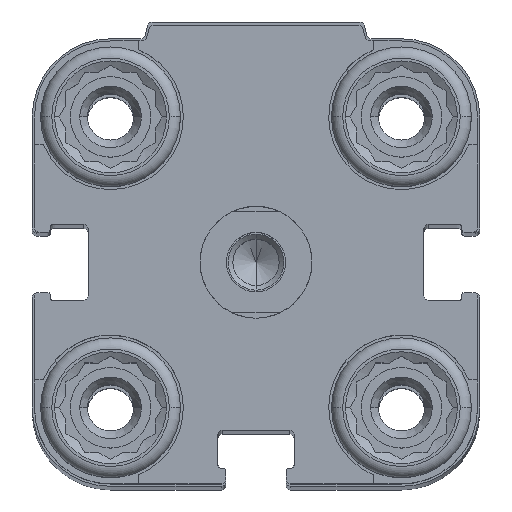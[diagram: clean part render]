
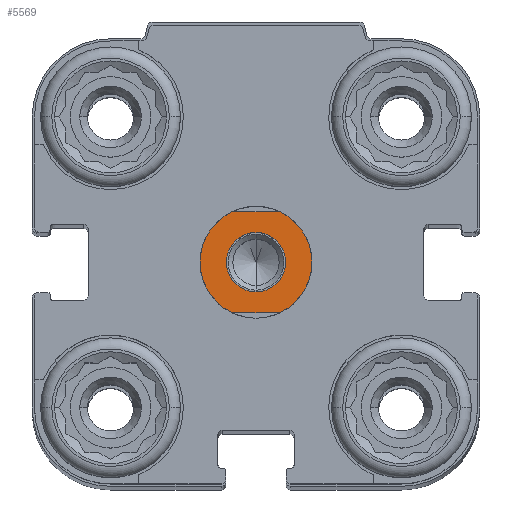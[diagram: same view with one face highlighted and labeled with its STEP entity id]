
A CAD part, top view. The second image highlights one B-rep face of the part: STEP entity #5569.
In plain terms, the highlighted planar face has unit normal (0, 0, 1).
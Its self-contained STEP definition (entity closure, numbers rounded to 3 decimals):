
#17 = AXIS2_PLACEMENT_3D ( 'NONE', #2848, #18433, #5394 ) ;
#822 = CIRCLE ( 'NONE', #6509, 5. ) ;
#1062 = DIRECTION ( 'NONE',  ( -1., 0., 0. ) ) ;
#2230 = CARTESIAN_POINT ( 'NONE',  ( 0., 0., 5.5 ) ) ;
#2274 = EDGE_LOOP ( 'NONE', ( #7427, #8539, #10688, #13159, #9763, #15773 ) ) ;
#2422 = DIRECTION ( 'NONE',  ( 1., 0., 0. ) ) ;
#2848 = CARTESIAN_POINT ( 'NONE',  ( 0., 0., 5.5 ) ) ;
#3004 = CARTESIAN_POINT ( 'NONE',  ( 5., 0., 5.5 ) ) ;
#3230 = CARTESIAN_POINT ( 'NONE',  ( 2.179, 4.5, 5.5 ) ) ;
#3819 = LINE ( 'NONE', #5059, #4812 ) ;
#3979 = CARTESIAN_POINT ( 'NONE',  ( 0., 0., 5.5 ) ) ;
#4176 = DIRECTION ( 'NONE',  ( 0., 1., 0. ) ) ;
#4812 = VECTOR ( 'NONE', #2422, 1000. ) ;
#5059 = CARTESIAN_POINT ( 'NONE',  ( -9., 4.5, 5.5 ) ) ;
#5167 = CARTESIAN_POINT ( 'NONE',  ( 0., 0., 5.5 ) ) ;
#5273 = CIRCLE ( 'NONE', #7975, 2.65 ) ;
#5282 = ORIENTED_EDGE ( 'NONE', *, *, #12957, .T. ) ;
#5394 = DIRECTION ( 'NONE',  ( -1., 0., 0. ) ) ;
#5490 = FACE_BOUND ( 'NONE', #8770, .T. ) ;
#5569 = ADVANCED_FACE ( 'NONE', ( #7616, #5490 ), #11205, .F. ) ;
#5578 = AXIS2_PLACEMENT_3D ( 'NONE', #8563, #7059, #12780 ) ;
#5937 = CIRCLE ( 'NONE', #8037, 2.65 ) ;
#6509 = AXIS2_PLACEMENT_3D ( 'NONE', #18241, #16749, #1062 ) ;
#6976 = VERTEX_POINT ( 'NONE', #8122 ) ;
#7059 = DIRECTION ( 'NONE',  ( 0., 0., -1. ) ) ;
#7202 = AXIS2_PLACEMENT_3D ( 'NONE', #3979, #18250, #15443 ) ;
#7252 = EDGE_CURVE ( 'NONE', #14333, #17712, #13070, .T. ) ;
#7427 = ORIENTED_EDGE ( 'NONE', *, *, #15764, .F. ) ;
#7479 = AXIS2_PLACEMENT_3D ( 'NONE', #18540, #16942, #4176 ) ;
#7616 = FACE_OUTER_BOUND ( 'NONE', #2274, .T. ) ;
#7716 = DIRECTION ( 'NONE',  ( -1., 0., 0. ) ) ;
#7865 = EDGE_CURVE ( 'NONE', #10430, #13417, #822, .T. ) ;
#7947 = DIRECTION ( 'NONE',  ( 0., 0., -1. ) ) ;
#7975 = AXIS2_PLACEMENT_3D ( 'NONE', #5167, #8438, #9830 ) ;
#8008 = VECTOR ( 'NONE', #7716, 1000. ) ;
#8037 = AXIS2_PLACEMENT_3D ( 'NONE', #2230, #7947, #13683 ) ;
#8122 = CARTESIAN_POINT ( 'NONE',  ( 0., -2.65, 5.5 ) ) ;
#8438 = DIRECTION ( 'NONE',  ( 0., 0., -1. ) ) ;
#8499 = CARTESIAN_POINT ( 'NONE',  ( -2.179, -4.5, 5.5 ) ) ;
#8539 = ORIENTED_EDGE ( 'NONE', *, *, #16271, .F. ) ;
#8563 = CARTESIAN_POINT ( 'NONE',  ( 0., 0., 5.5 ) ) ;
#8770 = EDGE_LOOP ( 'NONE', ( #9894, #5282 ) ) ;
#9763 = ORIENTED_EDGE ( 'NONE', *, *, #16351, .F. ) ;
#9830 = DIRECTION ( 'NONE',  ( 0., 1., 0. ) ) ;
#9844 = VERTEX_POINT ( 'NONE', #13889 ) ;
#9894 = ORIENTED_EDGE ( 'NONE', *, *, #11034, .T. ) ;
#10430 = VERTEX_POINT ( 'NONE', #3230 ) ;
#10688 = ORIENTED_EDGE ( 'NONE', *, *, #7252, .F. ) ;
#11034 = EDGE_CURVE ( 'NONE', #17773, #6976, #5273, .T. ) ;
#11205 = PLANE ( 'NONE',  #7479 ) ;
#11392 = VERTEX_POINT ( 'NONE', #15823 ) ;
#11952 = EDGE_CURVE ( 'NONE', #11392, #14333, #16081, .T. ) ;
#12780 = DIRECTION ( 'NONE',  ( -1., 0., 0. ) ) ;
#12957 = EDGE_CURVE ( 'NONE', #6976, #17773, #5937, .T. ) ;
#13070 = CIRCLE ( 'NONE', #5578, 5. ) ;
#13159 = ORIENTED_EDGE ( 'NONE', *, *, #11952, .F. ) ;
#13417 = VERTEX_POINT ( 'NONE', #3004 ) ;
#13683 = DIRECTION ( 'NONE',  ( 0., 1., 0. ) ) ;
#13889 = CARTESIAN_POINT ( 'NONE',  ( -2.179, 4.5, 5.5 ) ) ;
#14333 = VERTEX_POINT ( 'NONE', #8499 ) ;
#14796 = CARTESIAN_POINT ( 'NONE',  ( -5., 0., 5.5 ) ) ;
#14979 = CARTESIAN_POINT ( 'NONE',  ( 0., 2.65, 5.5 ) ) ;
#15314 = CIRCLE ( 'NONE', #7202, 5. ) ;
#15443 = DIRECTION ( 'NONE',  ( -1., 0., 0. ) ) ;
#15764 = EDGE_CURVE ( 'NONE', #9844, #10430, #3819, .T. ) ;
#15773 = ORIENTED_EDGE ( 'NONE', *, *, #7865, .F. ) ;
#15823 = CARTESIAN_POINT ( 'NONE',  ( 2.179, -4.5, 5.5 ) ) ;
#16081 = LINE ( 'NONE', #17577, #8008 ) ;
#16225 = CIRCLE ( 'NONE', #17, 5. ) ;
#16271 = EDGE_CURVE ( 'NONE', #17712, #9844, #16225, .T. ) ;
#16351 = EDGE_CURVE ( 'NONE', #13417, #11392, #15314, .T. ) ;
#16749 = DIRECTION ( 'NONE',  ( 0., 0., -1. ) ) ;
#16942 = DIRECTION ( 'NONE',  ( 0., 0., -1. ) ) ;
#17577 = CARTESIAN_POINT ( 'NONE',  ( 9., -4.5, 5.5 ) ) ;
#17712 = VERTEX_POINT ( 'NONE', #14796 ) ;
#17773 = VERTEX_POINT ( 'NONE', #14979 ) ;
#18241 = CARTESIAN_POINT ( 'NONE',  ( 0., 0., 5.5 ) ) ;
#18250 = DIRECTION ( 'NONE',  ( 0., 0., -1. ) ) ;
#18433 = DIRECTION ( 'NONE',  ( 0., 0., -1. ) ) ;
#18540 = CARTESIAN_POINT ( 'NONE',  ( 0., 0., 5.5 ) ) ;
